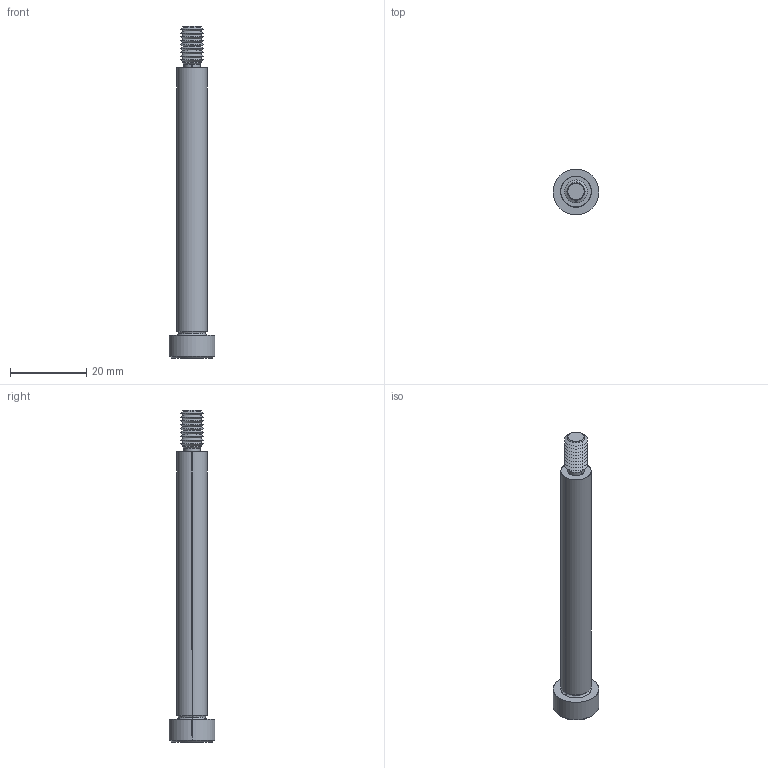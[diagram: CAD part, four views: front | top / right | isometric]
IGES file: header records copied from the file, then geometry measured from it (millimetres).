
Start section: SolidWorks IGES file using analytic representation for surfaces
Global section: file name: C:\Users\IanO\Documents\Temp Folder\GENERAL\SCREW REVISION\P0130_v2\P0130.T5_v2_20220106_IGES\P0130.080-070-T5.igs; native system: SolidWorks 2019; preprocessor: SolidWorks 2019; author: IanO; date: 220106.223821; units: millimetre
Bounding box: 12 x 12 x 87 mm (x, y, z)
Surface area: 2595.5 mm2 (no closed solid volume)
Topology: 0 solids, 0 shells, 80 faces, 580 edges, 578 vertices
Faces by surface type: revolution 60, bspline 20
